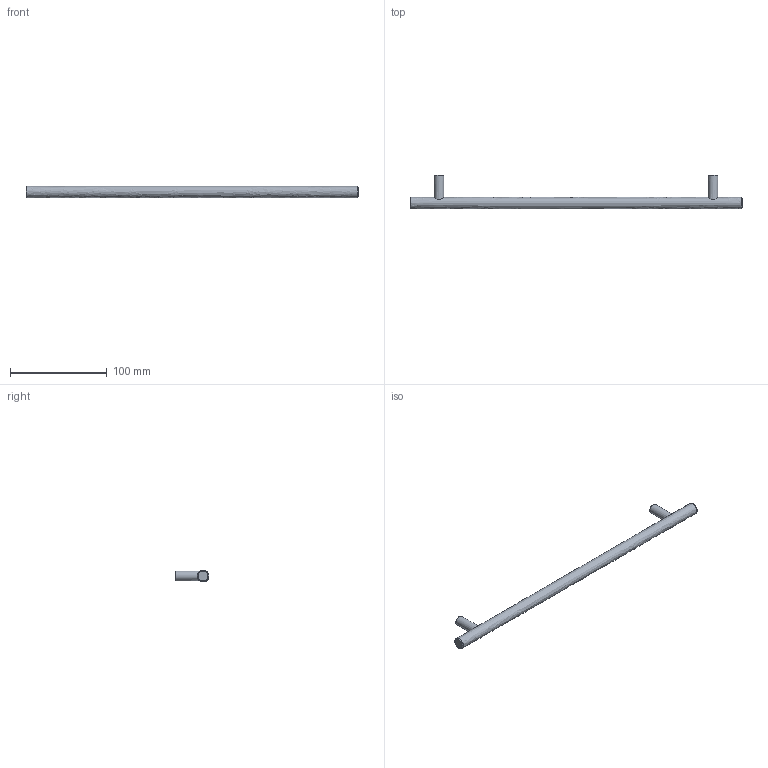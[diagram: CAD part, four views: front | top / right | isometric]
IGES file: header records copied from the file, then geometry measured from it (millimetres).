
Start section: Data from Parasolid IGES Translator 15.0.47, Copyright(c) 2006 Siemens P LM Software. All Rights Reserved.
Global section: file name: 9070734.igs; native system:  By UGS Corp.; preprocessor: XPlus GENERIC/IGES 3.0; author: Noname; organization: Noname; date: 20140123.103900; units: millimetre
Bounding box: 344 x 35 x 12 mm (x, y, z)
Surface area: 14866.2 mm2 (no closed solid volume)
Topology: 0 solids, 0 shells, 13 faces, 42 edges, 34 vertices
Faces by surface type: revolution 7, extrusion 6
